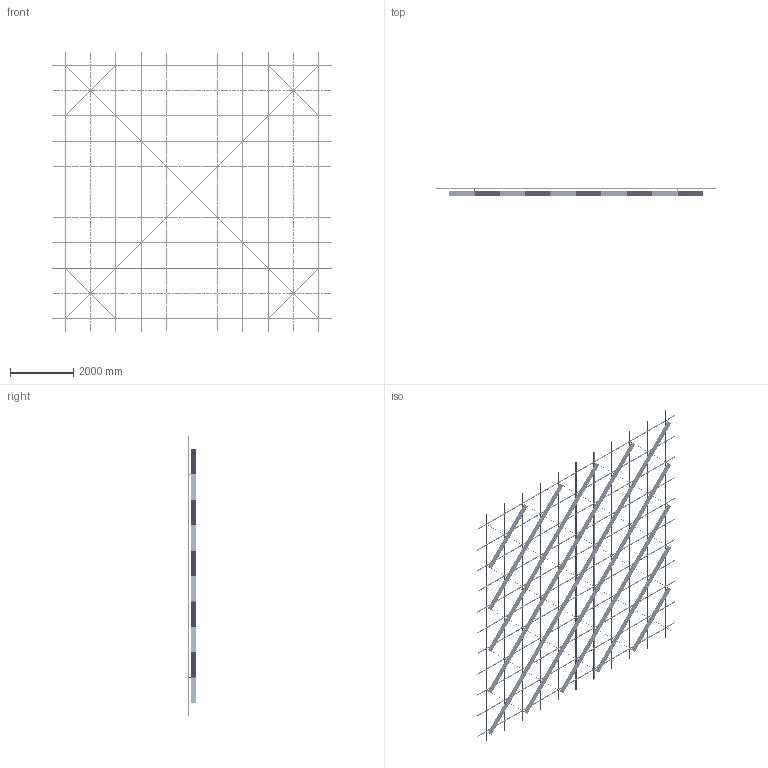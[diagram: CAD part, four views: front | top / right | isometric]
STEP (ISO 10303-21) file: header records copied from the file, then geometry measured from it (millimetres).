
FILE_DESCRIPTION (( 'STEP AP214' ), '1' );
FILE_NAME ('OPT_Var1.STEP', '2024-04-26T06:20:35', ( '' ), ( '' ), 'SwSTEP 2.0', 'SolidWorks 2020', '' );
FILE_SCHEMA (( 'AUTOMOTIVE_DESIGN' ));
Length unit declared in the file: millimetre
Products named in the file (5): OPT_Var1; SS.SEMA.2400 - Ñèìà-ïðîôèëü — îáðåçàí 1600; Varp1; Ñèñòåìà â çîíå 8000õ8000; SS.SEMA.2400 - Ñèìà-ïðîôèëü
Assembly tree (90 placements, depth 3):
  OPT_Var1
    Ñèñòåìà â çîíå 8000õ8000
      SS.SEMA.2400 - Ñèìà-ïðîôèëü  x66
      SS.SEMA.2400 - Ñèìà-ïðîôèëü — îáðåçàí 1600  x22
    Varp1
Bounding box: 8800 x 253 x 8800 mm (x, y, z)
Volume: 143957177.5 mm3; surface area: 65013783 mm2
Topology: 432 solids, 432 shells, 18476 faces, 51428 edges, 33816 vertices
Faces by surface type: cylinder 12346, plane 6130
Entity records: 64817 total; most frequent: CARTESIAN_POINT 18882, ORIENTED_EDGE 9704, DIRECTION 6306, EDGE_CURVE 4852, VERTEX_POINT 3224, AXIS2_PLACEMENT_3D 2904, B_SPLINE_CURVE_WITH_KNOTS 2888, EDGE_LOOP 2482
